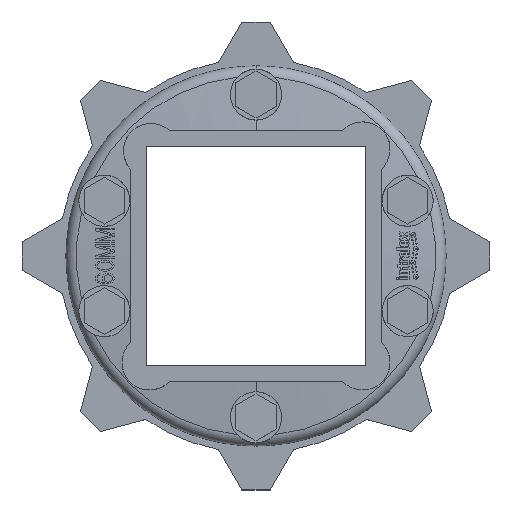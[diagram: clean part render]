
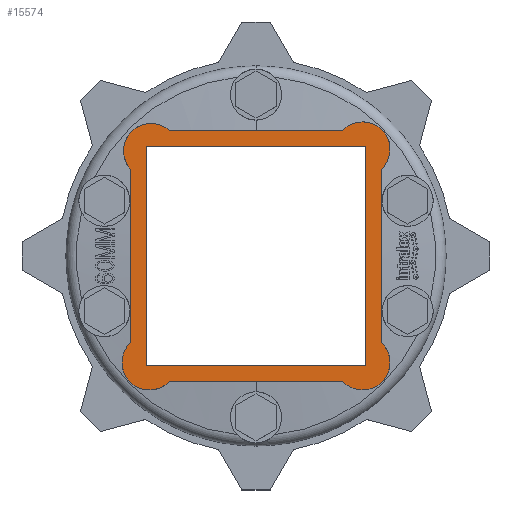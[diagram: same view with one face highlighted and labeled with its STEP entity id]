
A CAD part, top view. The second image highlights one B-rep face of the part: STEP entity #15574.
In plain terms, the highlighted planar face has unit normal (0, 0, 1) as drawn and (0, 1, 0) by its records, which use the part's own axes.
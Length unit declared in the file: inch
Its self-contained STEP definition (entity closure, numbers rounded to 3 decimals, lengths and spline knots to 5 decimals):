
#7834=DIRECTION('',(0.,0.,1.));
#7835=VECTOR('',#7834,1.8663);
#7836=CARTESIAN_POINT('',(-1.35,0.67,-0.93315));
#7837=LINE('',#7836,#7835);
#7838=CARTESIAN_POINT('',(-1.15,0.67,-1.15));
#7839=DIRECTION('',(0.,1.,0.));
#7840=DIRECTION('',(0.735,0.,-0.678));
#7841=AXIS2_PLACEMENT_3D('',#7838,#7839,#7840);
#7843=DIRECTION('',(-1.,0.,0.));
#7844=VECTOR('',#7843,1.8663);
#7845=CARTESIAN_POINT('',(0.93315,0.67,-1.35));
#7846=LINE('',#7845,#7844);
#7847=CARTESIAN_POINT('',(1.13315,0.67,-1.13315));
#7848=DIRECTION('',(0.,1.,0.));
#7849=DIRECTION('',(0.735,0.,0.678));
#7850=AXIS2_PLACEMENT_3D('',#7847,#7848,#7849);
#7852=DIRECTION('',(0.,0.,-1.));
#7853=VECTOR('',#7852,1.8663);
#7854=CARTESIAN_POINT('',(1.35,0.67,0.93315));
#7855=LINE('',#7854,#7853);
#7856=CARTESIAN_POINT('',(1.15,0.67,1.15));
#7857=DIRECTION('',(0.,1.,0.));
#7858=DIRECTION('',(-0.735,0.,0.678));
#7859=AXIS2_PLACEMENT_3D('',#7856,#7857,#7858);
#7861=DIRECTION('',(1.,0.,0.));
#7862=VECTOR('',#7861,1.8663);
#7863=CARTESIAN_POINT('',(-0.93315,0.67,1.35));
#7864=LINE('',#7863,#7862);
#7865=CARTESIAN_POINT('',(-1.15,0.67,1.15));
#7866=DIRECTION('',(0.,1.,0.));
#7867=DIRECTION('',(-0.678,0.,-0.735));
#7868=AXIS2_PLACEMENT_3D('',#7865,#7866,#7867);
#7870=DIRECTION('',(-1.,0.,0.));
#7871=VECTOR('',#7870,2.362);
#7872=CARTESIAN_POINT('',(1.181,0.67,-1.181));
#7873=LINE('',#7872,#7871);
#7874=DIRECTION('',(0.,0.,1.));
#7875=VECTOR('',#7874,2.362);
#7876=CARTESIAN_POINT('',(-1.181,0.67,-1.181));
#7877=LINE('',#7876,#7875);
#7878=DIRECTION('',(1.,0.,0.));
#7879=VECTOR('',#7878,2.362);
#7880=CARTESIAN_POINT('',(-1.181,0.67,1.181));
#7881=LINE('',#7880,#7879);
#7882=DIRECTION('',(0.,0.,-1.));
#7883=VECTOR('',#7882,2.362);
#7884=CARTESIAN_POINT('',(1.181,0.67,1.181));
#7885=LINE('',#7884,#7883);
#8770=CARTESIAN_POINT('',(-1.35,0.67,-0.93315));
#8771=CARTESIAN_POINT('',(-1.35,0.67,0.93315));
#8772=VERTEX_POINT('',#8770);
#8773=VERTEX_POINT('',#8771);
#8774=CARTESIAN_POINT('',(-0.93315,0.67,1.35));
#8775=VERTEX_POINT('',#8774);
#8776=CARTESIAN_POINT('',(0.93315,0.67,1.35));
#8777=VERTEX_POINT('',#8776);
#8778=CARTESIAN_POINT('',(1.35,0.67,0.93315));
#8779=VERTEX_POINT('',#8778);
#8780=CARTESIAN_POINT('',(1.35,0.67,-0.93315));
#8781=VERTEX_POINT('',#8780);
#8782=CARTESIAN_POINT('',(0.93315,0.67,-1.35));
#8783=VERTEX_POINT('',#8782);
#8784=CARTESIAN_POINT('',(-0.93315,0.67,-1.35));
#8785=VERTEX_POINT('',#8784);
#9572=CARTESIAN_POINT('',(1.181,0.67,-1.181));
#9573=CARTESIAN_POINT('',(-1.181,0.67,-1.181));
#9574=VERTEX_POINT('',#9572);
#9575=VERTEX_POINT('',#9573);
#9576=CARTESIAN_POINT('',(-1.181,0.67,1.181));
#9577=VERTEX_POINT('',#9576);
#9578=CARTESIAN_POINT('',(1.181,0.67,1.181));
#9579=VERTEX_POINT('',#9578);
#15549=CARTESIAN_POINT('',(0.,0.67,0.));
#15550=DIRECTION('',(0.,1.,0.));
#15551=DIRECTION('',(-1.,0.,0.));
#15552=AXIS2_PLACEMENT_3D('',#15549,#15550,#15551);
#15553=PLANE('',#15552);
#15554=ORIENTED_EDGE('',*,*,#15443,.F.);
#15555=ORIENTED_EDGE('',*,*,#15459,.F.);
#15556=ORIENTED_EDGE('',*,*,#15473,.F.);
#15557=ORIENTED_EDGE('',*,*,#15487,.F.);
#15558=ORIENTED_EDGE('',*,*,#15502,.F.);
#15559=ORIENTED_EDGE('',*,*,#15516,.F.);
#15560=ORIENTED_EDGE('',*,*,#15530,.F.);
#15561=ORIENTED_EDGE('',*,*,#15543,.F.);
#15562=EDGE_LOOP('',(#15554,#15555,#15556,#15557,#15558,#15559,#15560,#15561));
#15563=FACE_OUTER_BOUND('',#15562,.F.);
#15565=ORIENTED_EDGE('',*,*,#15564,.T.);
#15567=ORIENTED_EDGE('',*,*,#15566,.T.);
#15569=ORIENTED_EDGE('',*,*,#15568,.T.);
#15571=ORIENTED_EDGE('',*,*,#15570,.T.);
#15572=EDGE_LOOP('',(#15565,#15567,#15569,#15571));
#15573=FACE_BOUND('',#15572,.F.);
#15574=ADVANCED_FACE('',(#15563,#15573),#15553,.T.);
#7842=CIRCLE('',#7841,0.295);
#7851=CIRCLE('',#7850,0.295);
#7860=CIRCLE('',#7859,0.295);
#7869=CIRCLE('',#7868,0.295);
#15443=EDGE_CURVE('',#8772,#8773,#7837,.T.);
#15459=EDGE_CURVE('',#8785,#8772,#7842,.T.);
#15473=EDGE_CURVE('',#8783,#8785,#7846,.T.);
#15487=EDGE_CURVE('',#8781,#8783,#7851,.T.);
#15502=EDGE_CURVE('',#8779,#8781,#7855,.T.);
#15516=EDGE_CURVE('',#8777,#8779,#7860,.T.);
#15530=EDGE_CURVE('',#8775,#8777,#7864,.T.);
#15543=EDGE_CURVE('',#8773,#8775,#7869,.T.);
#15564=EDGE_CURVE('',#9574,#9575,#7873,.T.);
#15566=EDGE_CURVE('',#9575,#9577,#7877,.T.);
#15568=EDGE_CURVE('',#9577,#9579,#7881,.T.);
#15570=EDGE_CURVE('',#9579,#9574,#7885,.T.);
